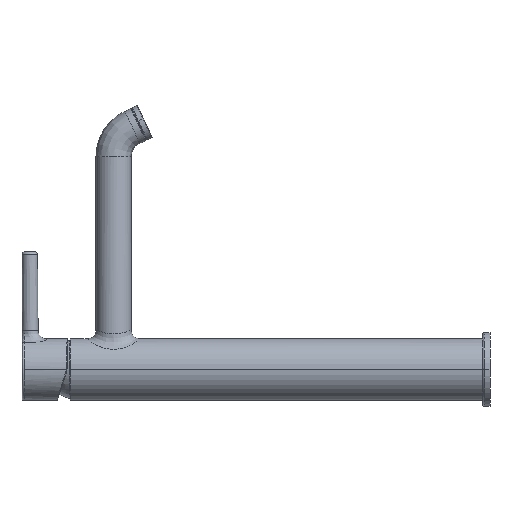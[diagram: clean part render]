
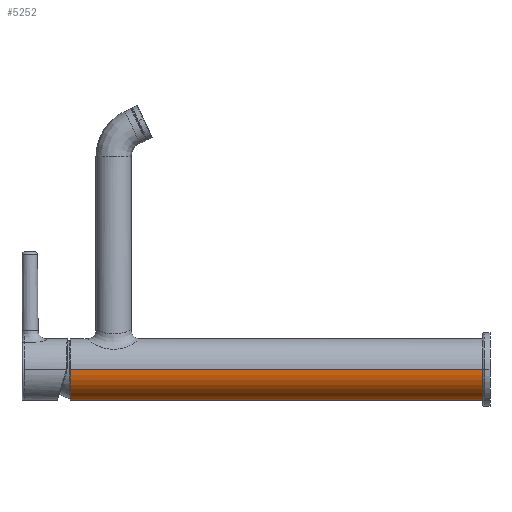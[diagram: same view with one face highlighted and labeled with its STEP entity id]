
A CAD part, left-side view. The second image highlights one B-rep face of the part: STEP entity #5252.
In plain terms, the highlighted cylindrical face has radius 21 mm (diameter 42 mm), a partial arc.
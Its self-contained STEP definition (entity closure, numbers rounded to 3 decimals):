
#5252 = ADVANCED_FACE ( 'NONE', ( #56143 ), #133732, .T. ) ;
#6860 = LINE ( 'NONE', #59333, #85868 ) ;
#7776 = DIRECTION ( 'NONE',  ( 0., 1., 0. ) ) ;
#7939 = DIRECTION ( 'NONE',  ( 0., 1., 0. ) ) ;
#14524 = EDGE_LOOP ( 'NONE', ( #65584, #93707, #14648, #106411 ) ) ;
#14648 = ORIENTED_EDGE ( 'NONE', *, *, #123947, .T. ) ;
#26220 = CIRCLE ( 'NONE', #43262, 21. ) ;
#32803 = CARTESIAN_POINT ( 'NONE',  ( -21., 0., 0. ) ) ;
#33143 = VERTEX_POINT ( 'NONE', #32803 ) ;
#39431 = AXIS2_PLACEMENT_3D ( 'NONE', #130579, #110685, #59681 ) ;
#43262 = AXIS2_PLACEMENT_3D ( 'NONE', #79624, #100870, #59366 ) ;
#56143 = FACE_OUTER_BOUND ( 'NONE', #14524, .T. ) ;
#57523 = CIRCLE ( 'NONE', #39431, 21. ) ;
#59333 = CARTESIAN_POINT ( 'NONE',  ( 21., 140., 0. ) ) ;
#59366 = DIRECTION ( 'NONE',  ( 1., 0., 0. ) ) ;
#59485 = CARTESIAN_POINT ( 'NONE',  ( -21., 140., 0. ) ) ;
#59681 = DIRECTION ( 'NONE',  ( 1., 0., 0. ) ) ;
#59934 = EDGE_CURVE ( 'NONE', #67812, #92208, #6860, .T. ) ;
#65584 = ORIENTED_EDGE ( 'NONE', *, *, #75717, .T. ) ;
#66258 = CARTESIAN_POINT ( 'NONE',  ( 21., 0., 0. ) ) ;
#67812 = VERTEX_POINT ( 'NONE', #66258 ) ;
#73659 = CARTESIAN_POINT ( 'NONE',  ( -21., 280., 0. ) ) ;
#74946 = EDGE_CURVE ( 'NONE', #33143, #110379, #89860, .T. ) ;
#75717 = EDGE_CURVE ( 'NONE', #67812, #33143, #57523, .T. ) ;
#78538 = DIRECTION ( 'NONE',  ( 1., 0., 0. ) ) ;
#79624 = CARTESIAN_POINT ( 'NONE',  ( 0., 280., 0. ) ) ;
#82252 = AXIS2_PLACEMENT_3D ( 'NONE', #101118, #7776, #78538 ) ;
#85868 = VECTOR ( 'NONE', #7939, 1000. ) ;
#88290 = VECTOR ( 'NONE', #91418, 1000. ) ;
#89860 = LINE ( 'NONE', #59485, #88290 ) ;
#90560 = CARTESIAN_POINT ( 'NONE',  ( 21., 280., 0. ) ) ;
#91418 = DIRECTION ( 'NONE',  ( 0., 1., 0. ) ) ;
#92208 = VERTEX_POINT ( 'NONE', #90560 ) ;
#93707 = ORIENTED_EDGE ( 'NONE', *, *, #74946, .T. ) ;
#100870 = DIRECTION ( 'NONE',  ( 0., -1., 0. ) ) ;
#101118 = CARTESIAN_POINT ( 'NONE',  ( 0., 140., 0. ) ) ;
#106411 = ORIENTED_EDGE ( 'NONE', *, *, #59934, .F. ) ;
#110379 = VERTEX_POINT ( 'NONE', #73659 ) ;
#110685 = DIRECTION ( 'NONE',  ( 0., 1., 0. ) ) ;
#123947 = EDGE_CURVE ( 'NONE', #110379, #92208, #26220, .T. ) ;
#130579 = CARTESIAN_POINT ( 'NONE',  ( 0., 0., 0. ) ) ;
#133732 = CYLINDRICAL_SURFACE ( 'NONE', #82252, 21. ) ;
